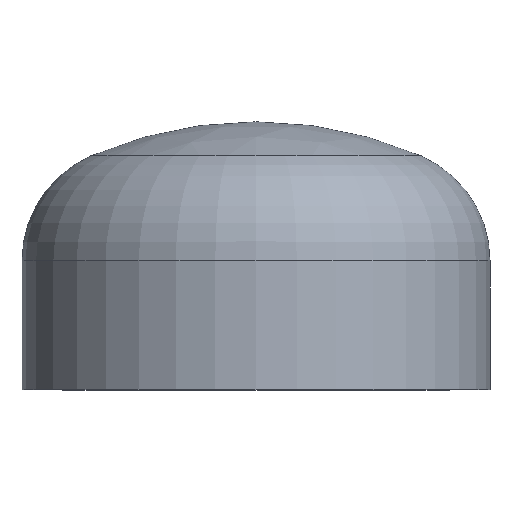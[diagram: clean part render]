
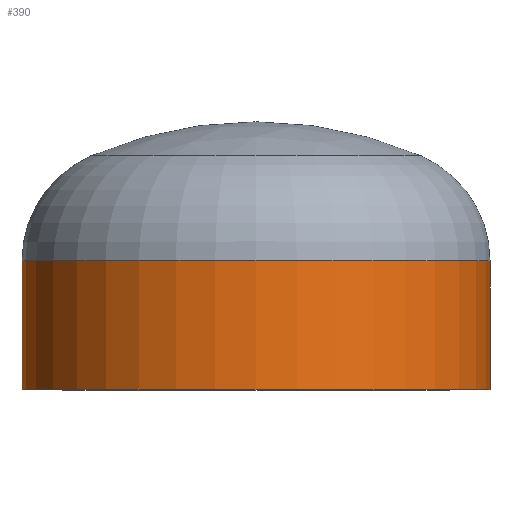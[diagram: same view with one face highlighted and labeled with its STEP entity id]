
A CAD part, top view. The second image highlights one B-rep face of the part: STEP entity #390.
In plain terms, the highlighted cylindrical face has radius 254 mm (diameter 508 mm), a partial arc.
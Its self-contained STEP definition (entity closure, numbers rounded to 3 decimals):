
#6 = VERTEX_POINT ( 'NONE', #338 ) ;
#10 = ORIENTED_EDGE ( 'NONE', *, *, #340, .T. ) ;
#14 = DIRECTION ( 'NONE',  ( 1., 0., 0. ) ) ;
#36 = VERTEX_POINT ( 'NONE', #354 ) ;
#37 = VERTEX_POINT ( 'NONE', #145 ) ;
#41 = ORIENTED_EDGE ( 'NONE', *, *, #305, .F. ) ;
#67 = VERTEX_POINT ( 'NONE', #360 ) ;
#72 = EDGE_LOOP ( 'NONE', ( #10, #105, #90, #41 ) ) ;
#80 = AXIS2_PLACEMENT_3D ( 'NONE', #298, #131, #324 ) ;
#87 = DIRECTION ( 'NONE',  ( 0., -1., 0. ) ) ;
#90 = ORIENTED_EDGE ( 'NONE', *, *, #335, .F. ) ;
#105 = ORIENTED_EDGE ( 'NONE', *, *, #365, .T. ) ;
#131 = DIRECTION ( 'NONE',  ( 0., -1., 0. ) ) ;
#145 = CARTESIAN_POINT ( 'NONE',  ( -254., 140., 0. ) ) ;
#218 = CIRCLE ( 'NONE', #80, 254. ) ;
#220 = CARTESIAN_POINT ( 'NONE',  ( 254., 0., 0. ) ) ;
#225 = DIRECTION ( 'NONE',  ( 0., -1., 0. ) ) ;
#249 = DIRECTION ( 'NONE',  ( 0., -1., 0. ) ) ;
#259 = CYLINDRICAL_SURFACE ( 'NONE', #267, 254. ) ;
#267 = AXIS2_PLACEMENT_3D ( 'NONE', #301, #87, #373 ) ;
#286 = CIRCLE ( 'NONE', #378, 254. ) ;
#293 = VECTOR ( 'NONE', #391, 1000. ) ;
#298 = CARTESIAN_POINT ( 'NONE',  ( 0., 140., 0. ) ) ;
#301 = CARTESIAN_POINT ( 'NONE',  ( 0., 0., 0. ) ) ;
#305 = EDGE_CURVE ( 'NONE', #67, #6, #361, .T. ) ;
#324 = DIRECTION ( 'NONE',  ( 1., 0., 0. ) ) ;
#335 = EDGE_CURVE ( 'NONE', #6, #36, #286, .T. ) ;
#338 = CARTESIAN_POINT ( 'NONE',  ( 254., 0., 0. ) ) ;
#340 = EDGE_CURVE ( 'NONE', #67, #37, #218, .T. ) ;
#341 = FACE_OUTER_BOUND ( 'NONE', #72, .T. ) ;
#344 = LINE ( 'NONE', #395, #402 ) ;
#354 = CARTESIAN_POINT ( 'NONE',  ( -254., 0., 0. ) ) ;
#360 = CARTESIAN_POINT ( 'NONE',  ( 254., 140., 0. ) ) ;
#361 = LINE ( 'NONE', #220, #293 ) ;
#365 = EDGE_CURVE ( 'NONE', #37, #36, #344, .T. ) ;
#373 = DIRECTION ( 'NONE',  ( 1., 0., 0. ) ) ;
#378 = AXIS2_PLACEMENT_3D ( 'NONE', #393, #249, #14 ) ;
#390 = ADVANCED_FACE ( 'NONE', ( #341 ), #259, .T. ) ;
#391 = DIRECTION ( 'NONE',  ( 0., -1., 0. ) ) ;
#393 = CARTESIAN_POINT ( 'NONE',  ( 0., 0., 0. ) ) ;
#395 = CARTESIAN_POINT ( 'NONE',  ( -254., 0., 0. ) ) ;
#402 = VECTOR ( 'NONE', #225, 1000. ) ;
